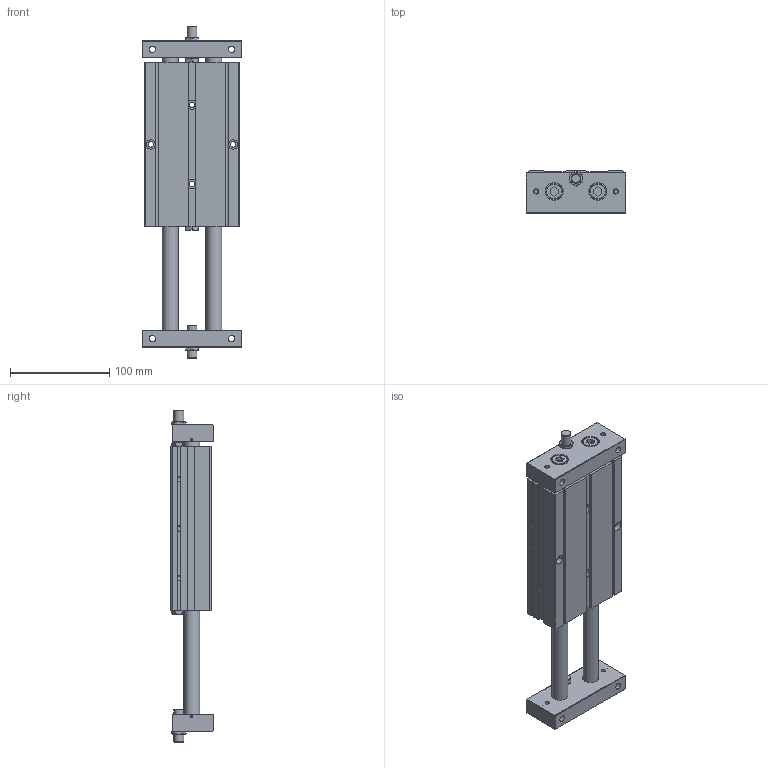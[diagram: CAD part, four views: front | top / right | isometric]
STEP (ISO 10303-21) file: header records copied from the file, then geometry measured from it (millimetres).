
FILE_DESCRIPTION((''),'2;1');
FILE_NAME('I:\3D電子目錄\氣缸\STU\STU\STU32\STU32x100.stp','2007-10-01T14:02:11',('Administrator'),(''),'Autodesk Inventor 11','Autodesk Inventor 11','');
FILE_SCHEMA(('AUTOMOTIVE_DESIGN { 1 0 10303 214 1 1 1 1 }'));
Length unit declared in the file: millimetre
Products named in the file (1): STU32
Bounding box: 100 x 42.5 x 335 mm (x, y, z)
Volume: 771816.1 mm3; surface area: 116252.2 mm2
Topology: 1 solids, 1 shells, 315 faces, 744 edges, 472 vertices
Faces by surface type: plane 145, cone 76, bspline 62, cylinder 28, torus 4
Full cylindrical faces by diameter (mm): 2.459 x2, 9.5 x4, 10 x4, 16 x6, 17.5 x4, 34 x2, 35.9 x2
Entity records: 9985 total; most frequent: CARTESIAN_POINT 3594, ORIENTED_EDGE 1220, DIRECTION 1212, EDGE_CURVE 610, EDGE_LOOP 518, AXIS2_PLACEMENT_3D 464, VERTEX_POINT 446, FACE_OUTER_BOUND 315
